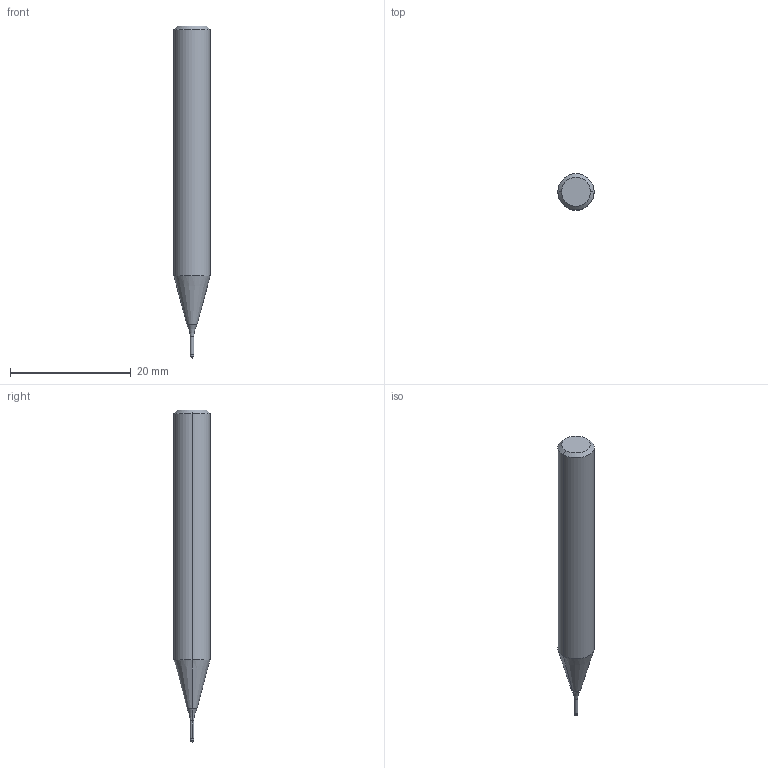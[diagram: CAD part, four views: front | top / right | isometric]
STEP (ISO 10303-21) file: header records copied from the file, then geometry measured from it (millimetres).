
FILE_DESCRIPTION (( 'STEP AP214' ), '1' );
FILE_NAME ('559.061.10_3D-model.step', '2022-02-18T15:23:58', ( '' ), ( '' ), 'SwSTEP 2.0', 'SolidWorks 2020', '' );
FILE_SCHEMA (( 'AUTOMOTIVE_DESIGN' ));
Length unit declared in the file: millimetre
Products named in the file (3): NOCUT-3D^Baugr168; CUT-3D^Baugr168; 559.061.10_3D-model
Assembly tree (2 placements, depth 2):
  559.061.10_3D-model
    CUT-3D^Baugr168
    NOCUT-3D^Baugr168
Bounding box: 6 x 6 x 55 mm (x, y, z)
Volume: 1272.7 mm3; surface area: 915.4 mm2
Topology: 2 solids, 2 shells, 19 faces, 38 edges, 21 vertices
Faces by surface type: cylinder 6, cone 6, plane 3, sphere 2, torus 2
Entity records: 604 total; most frequent: DIRECTION 114, CARTESIAN_POINT 84, ORIENTED_EDGE 72, AXIS2_PLACEMENT_3D 51, EDGE_CURVE 36, CIRCLE 24, VERTEX_POINT 21, FACE_OUTER_BOUND 19
